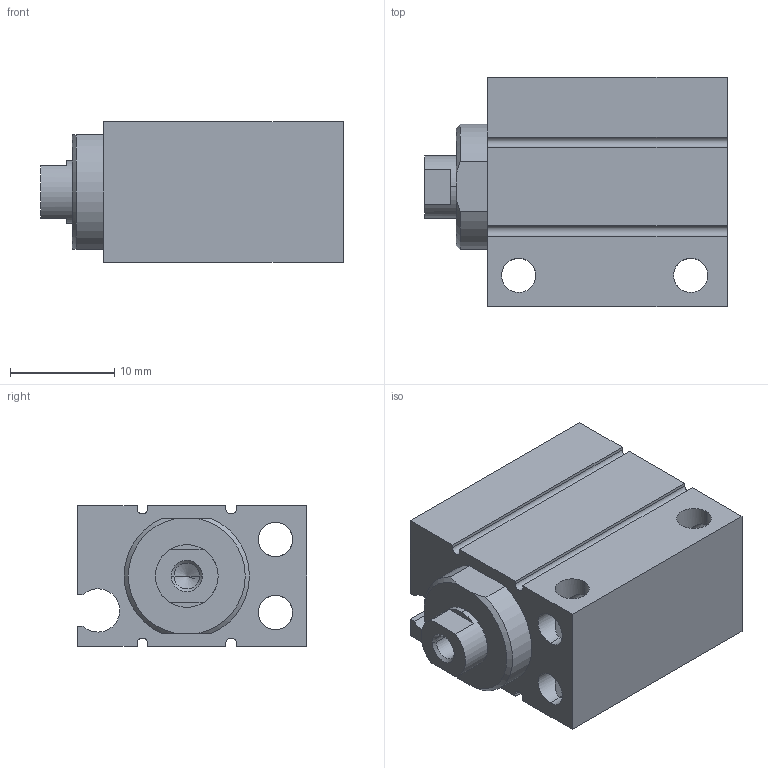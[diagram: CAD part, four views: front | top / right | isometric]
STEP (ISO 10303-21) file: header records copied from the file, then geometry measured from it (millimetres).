
FILE_DESCRIPTION (( 'STEP AP203' ), '1' );
FILE_NAME ('CLJB10-10.STEP', '2020-07-30T18:47:20', ( '' ), ( '' ), 'SwSTEP 2.0', 'SolidWorks 2019', '' );
FILE_SCHEMA (( 'CONFIG_CONTROL_DESIGN' ));
Length unit declared in the file: millimetre
Products named in the file (1): CLJB10-10
Bounding box: 29 x 22 x 13.5 mm (x, y, z)
Volume: 5757 mm3; surface area: 4367.3 mm2
Topology: 2 solids, 2 shells, 96 faces, 252 edges, 153 vertices
Faces by surface type: cylinder 49, plane 33, cone 14
Entity records: 2995 total; most frequent: CARTESIAN_POINT 604, ORIENTED_EDGE 492, DIRECTION 482, EDGE_CURVE 246, AXIS2_PLACEMENT_3D 175, VERTEX_POINT 153, LINE 132, VECTOR 132
